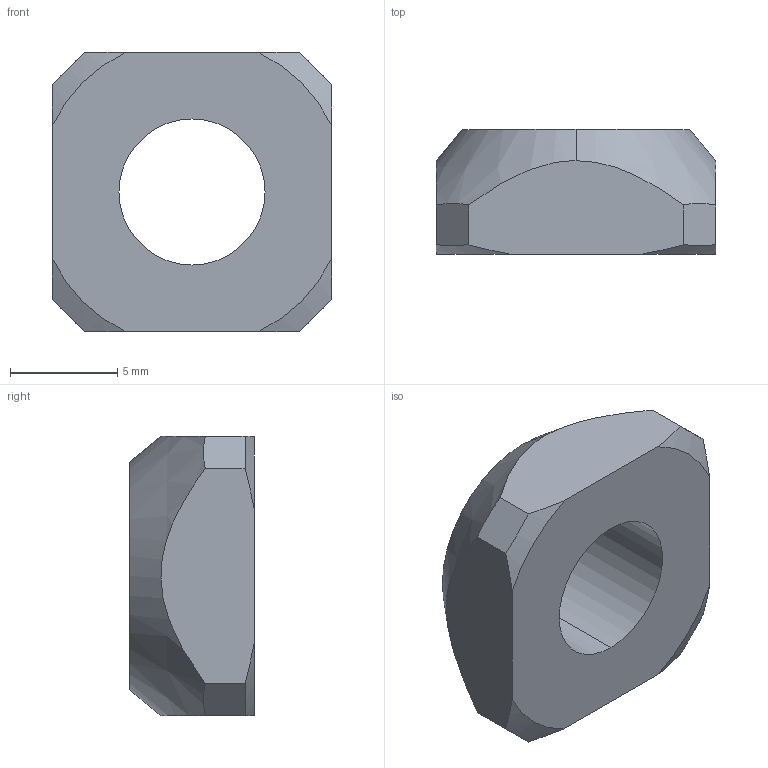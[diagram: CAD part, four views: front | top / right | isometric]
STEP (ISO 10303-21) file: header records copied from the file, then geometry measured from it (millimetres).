
FILE_DESCRIPTION (( 'STEP AP214' ), '1' );
FILE_NAME ('1.2009 Neliömutteri M8.STEP', '2025-09-05T10:13:27', ( '' ), ( '' ), 'SwSTEP 2.0', 'SolidWorks 2025', '' );
FILE_SCHEMA (( 'AUTOMOTIVE_DESIGN' ));
Length unit declared in the file: millimetre
Products named in the file (1): 1.2009 Neliömutteri M8
Bounding box: 13 x 5.8 x 13 mm (x, y, z)
Volume: 632 mm3; surface area: 576.1 mm2
Topology: 1 solids, 1 shells, 20 faces, 52 edges, 34 vertices
Faces by surface type: plane 10, cone 8, cylinder 2
Entity records: 743 total; most frequent: CARTESIAN_POINT 233, ORIENTED_EDGE 104, DIRECTION 84, EDGE_CURVE 52, VERTEX_POINT 34, AXIS2_PLACEMENT_3D 33, EDGE_LOOP 22, B_SPLINE_CURVE_WITH_KNOTS 22
